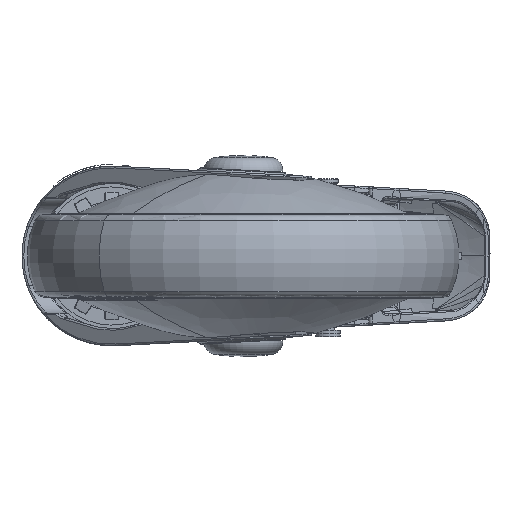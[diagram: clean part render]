
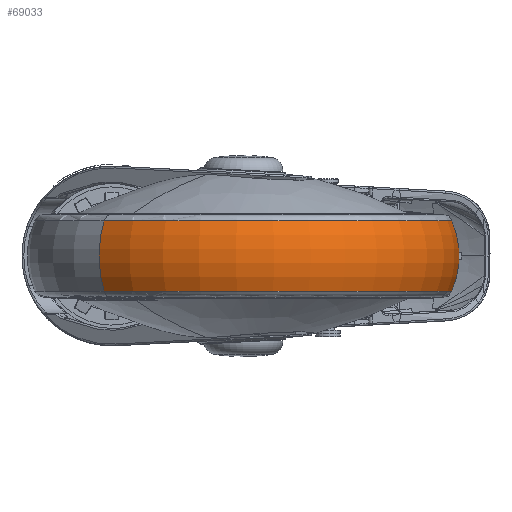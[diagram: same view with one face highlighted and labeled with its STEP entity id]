
A CAD part, front view. The second image highlights one B-rep face of the part: STEP entity #69033.
In plain terms, the highlighted toroidal (fillet/blend) face has major radius 37.5 mm and minor radius 25 mm.
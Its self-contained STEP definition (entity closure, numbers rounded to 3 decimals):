
#62639=CARTESIAN_POINT('',(38.,-82.3,10.137));
#62640=DIRECTION('',(0.,0.,-1.));
#62641=DIRECTION('',(0.667,0.745,0.));
#62642=AXIS2_PLACEMENT_3D('',#62639,#62640,#62641);
#62644=CARTESIAN_POINT('',(63.001,-54.35,0.));
#62645=DIRECTION('',(-0.745,0.667,0.));
#62646=DIRECTION('',(0.609,0.681,0.405));
#62647=AXIS2_PLACEMENT_3D('',#62644,#62645,#62646);
#62649=CARTESIAN_POINT('',(38.,-82.3,-10.137));
#62650=DIRECTION('',(0.,0.,-1.));
#62651=DIRECTION('',(0.667,0.745,0.));
#62652=AXIS2_PLACEMENT_3D('',#62649,#62650,#62651);
#62654=CARTESIAN_POINT('',(12.999,-110.25,0.));
#62655=DIRECTION('',(0.745,-0.667,0.));
#62656=DIRECTION('',(-0.609,-0.681,0.405));
#62657=AXIS2_PLACEMENT_3D('',#62654,#62655,#62656);
#67588=CARTESIAN_POINT('',(78.236,-37.317,
10.137));
#67589=CARTESIAN_POINT('',(-2.236,-127.283,
10.137));
#67590=VERTEX_POINT('',#67588);
#67591=VERTEX_POINT('',#67589);
#67592=CARTESIAN_POINT('',(-2.236,-127.283,
-10.137));
#67593=CARTESIAN_POINT('',(78.236,-37.317,
-10.137));
#67594=VERTEX_POINT('',#67592);
#67595=VERTEX_POINT('',#67593);
#69021=CARTESIAN_POINT('',(38.,-82.3,0.));
#69022=DIRECTION('',(0.,0.,1.));
#69023=DIRECTION('',(-0.667,-0.745,0.));
#69024=AXIS2_PLACEMENT_3D('',#69021,#69022,#69023);
#69025=TOROIDAL_SURFACE('',#69024,37.5,25.);
#69026=ORIENTED_EDGE('',*,*,#68972,.F.);
#69027=ORIENTED_EDGE('',*,*,#68507,.T.);
#69029=ORIENTED_EDGE('',*,*,#69028,.T.);
#69030=ORIENTED_EDGE('',*,*,#68503,.F.);
#69031=EDGE_LOOP('',(#69026,#69027,#69029,#69030));
#69032=FACE_OUTER_BOUND('',#69031,.F.);
#62643=CIRCLE('',#62642,60.352);
#62648=CIRCLE('',#62647,25.);
#62653=CIRCLE('',#62652,60.352);
#62658=CIRCLE('',#62657,25.);
#68503=EDGE_CURVE('',#67591,#67594,#62658,.T.);
#68507=EDGE_CURVE('',#67590,#67595,#62648,.T.);
#68972=EDGE_CURVE('',#67590,#67591,#62643,.T.);
#69028=EDGE_CURVE('',#67595,#67594,#62653,.T.);
#69033=ADVANCED_FACE('',(#69032),#69025,.T.);
